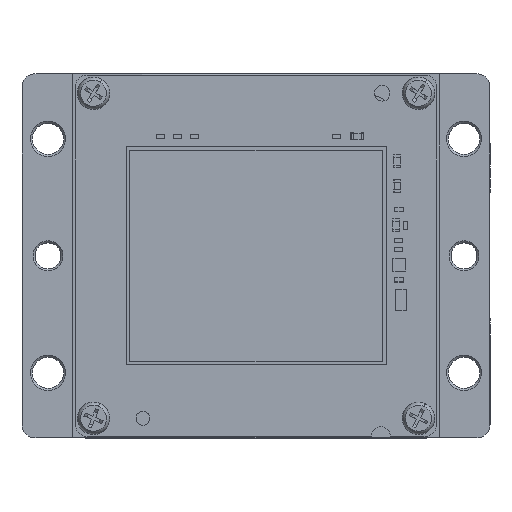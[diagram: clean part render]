
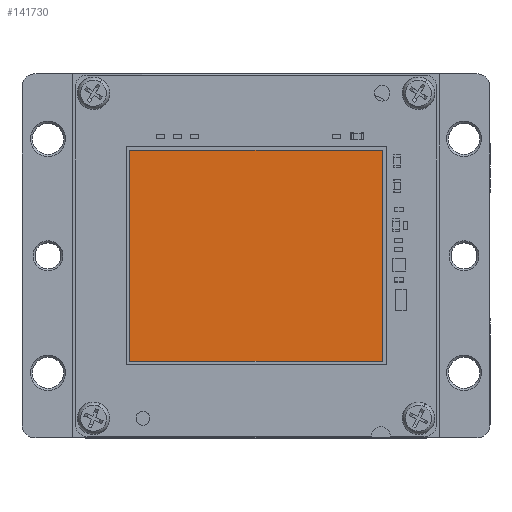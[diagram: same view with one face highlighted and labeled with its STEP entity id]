
A CAD part, top view. The second image highlights one B-rep face of the part: STEP entity #141730.
In plain terms, the highlighted planar face has unit normal (0, 0, 1).
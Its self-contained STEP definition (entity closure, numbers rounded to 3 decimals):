
#3357 = VECTOR ( 'NONE', #110291, 1000. ) ;
#5340 = VERTEX_POINT ( 'NONE', #5817 ) ;
#5817 = CARTESIAN_POINT ( 'NONE',  ( -9.7, 8.1, 2.575 ) ) ;
#10372 = ORIENTED_EDGE ( 'NONE', *, *, #22255, .T. ) ;
#13972 = EDGE_CURVE ( 'NONE', #110792, #71205, #63670, .T. ) ;
#21657 = VECTOR ( 'NONE', #48276, 1000. ) ;
#22255 = EDGE_CURVE ( 'NONE', #98494, #5340, #118799, .T. ) ;
#30191 = ORIENTED_EDGE ( 'NONE', *, *, #13972, .T. ) ;
#36939 = VECTOR ( 'NONE', #76679, 1000. ) ;
#39432 = EDGE_LOOP ( 'NONE', ( #30191, #136658, #10372, #84062 ) ) ;
#40387 = PLANE ( 'NONE',  #99340 ) ;
#48276 = DIRECTION ( 'NONE',  ( 0., -1., 0. ) ) ;
#52764 = FACE_OUTER_BOUND ( 'NONE', #39432, .T. ) ;
#62995 = DIRECTION ( 'NONE',  ( 0., 0., 1. ) ) ;
#63670 = LINE ( 'NONE', #108143, #3357 ) ;
#68323 = EDGE_CURVE ( 'NONE', #5340, #110792, #91297, .T. ) ;
#70526 = CARTESIAN_POINT ( 'NONE',  ( 9.7, 8.1, 2.575 ) ) ;
#71205 = VERTEX_POINT ( 'NONE', #73857 ) ;
#73857 = CARTESIAN_POINT ( 'NONE',  ( 9.7, -8.1, 2.575 ) ) ;
#73931 = DIRECTION ( 'NONE',  ( 1., 0., 0. ) ) ;
#76679 = DIRECTION ( 'NONE',  ( 0., 1., 0. ) ) ;
#84062 = ORIENTED_EDGE ( 'NONE', *, *, #68323, .T. ) ;
#91297 = LINE ( 'NONE', #113225, #21657 ) ;
#96509 = EDGE_CURVE ( 'NONE', #71205, #98494, #122597, .T. ) ;
#98494 = VERTEX_POINT ( 'NONE', #70526 ) ;
#99340 = AXIS2_PLACEMENT_3D ( 'NONE', #129343, #62995, #73931 ) ;
#108143 = CARTESIAN_POINT ( 'NONE',  ( -9.7, -8.1, 2.575 ) ) ;
#110291 = DIRECTION ( 'NONE',  ( 1., 0., 0. ) ) ;
#110471 = CARTESIAN_POINT ( 'NONE',  ( -9.7, -8.1, 2.575 ) ) ;
#110792 = VERTEX_POINT ( 'NONE', #110471 ) ;
#113225 = CARTESIAN_POINT ( 'NONE',  ( -9.7, -8.1, 2.575 ) ) ;
#117322 = CARTESIAN_POINT ( 'NONE',  ( -9.7, 8.1, 2.575 ) ) ;
#118799 = LINE ( 'NONE', #117322, #143239 ) ;
#121168 = CARTESIAN_POINT ( 'NONE',  ( 9.7, -8.1, 2.575 ) ) ;
#122597 = LINE ( 'NONE', #121168, #36939 ) ;
#129343 = CARTESIAN_POINT ( 'NONE',  ( 0., 0., 2.575 ) ) ;
#136658 = ORIENTED_EDGE ( 'NONE', *, *, #96509, .T. ) ;
#138481 = DIRECTION ( 'NONE',  ( -1., 0., 0. ) ) ;
#141730 = ADVANCED_FACE ( 'NONE', ( #52764 ), #40387, .T. ) ;
#143239 = VECTOR ( 'NONE', #138481, 1000. ) ;
